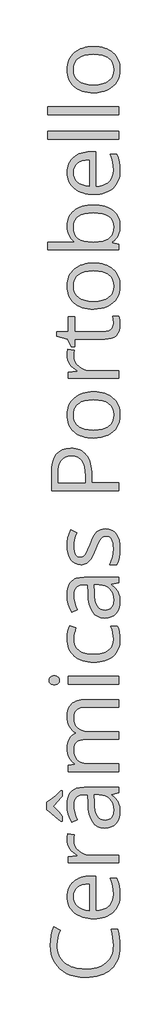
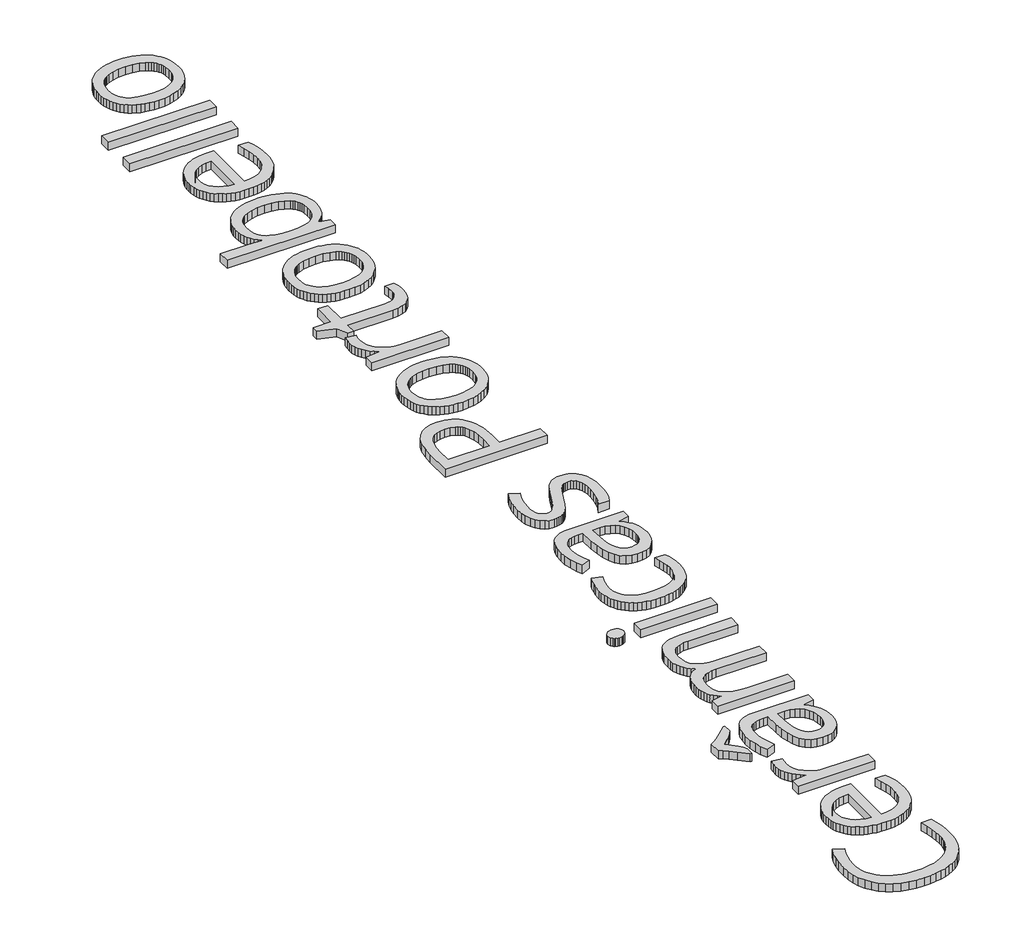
# One storey, part 5 of 10: 1 proxy.
"""IFC4 building model written with IfcOpenShell, lengths in millimetres."""

from ifc_helpers import new_model, si_unit, origin, origin_with_axes, place, context, project, spatial, polyline, outline, extrude, element, save

model = new_model("IFC4")

# Units and contexts
model_context = context("Model", 3, world=origin())
ifc_project = project(units=[si_unit("LENGTHUNIT", "METRE", prefix="MILLI")], contexts=[model_context])

# Site, building, storey
site = spatial("IfcSite", under=ifc_project)
building = spatial("IfcBuilding", under=site)
storey = spatial("IfcBuildingStorey", under=building, Name="PORTOBELLO - SHOWROOM", Elevation=0.0)

# Proxy
placement = place(None, origin())
element("IfcBuildingElementProxy", 1, Name="1200mm OpenSans", ObjectType="1200mm OpenSans", at=placement, inside=storey, context=model_context, shape_type="SweptSolid", body=[
    extrude(outline(polyline([(147390.2396817, -4554.9783889), (147392.360729, -4603.1624993), (147398.7238709, -4648.7438902), (147409.3291074, -4691.7225617), (147424.1764385, -4732.0985139), (147443.2658642, -4769.8717467), (147466.5973845, -4805.04226), (147494.1709994, -4837.610054), (147525.9867088, -4867.5751286), (147561.4924209, -4894.4473613), (147600.1360436, -4917.7366296), (147641.9175769, -4937.4429336), (147686.8370208, -4953.5662732), (147734.8943753, -4966.1066485), (147786.0896405, -4975.0640594), (147840.4228162, -4980.4385059), (147897.8939026, -4982.2299881), (147956.8353564, -4980.5032922), (148012.3346856, -4975.3232046), (148064.3918903, -4966.6897252), (148113.0069704, -4954.6028541), (148158.1799259, -4939.0625912), (148199.9107569, -4920.0689366), (148238.1994633, -4897.6218903), (148273.0460452, -4871.7214521), (148304.1012198, -4842.6267675), (148331.0157044, -4810.5969815), (148353.7894991, -4775.6320942), (148372.4226038, -4737.7321057), (148386.9150186, -4696.8970158), (148397.2667435, -4653.1268246), (148403.4777784, -4606.4215321), (148405.5481234, -4556.7811383), (148402.7313275, -4491.6793519), (148394.2809399, -4422.2058983), (148380.1969605, -4348.3607775), (148360.4793893, -4270.1439895), (148477.2975481, -4270.1439895), (148496.384157, -4336.1696849), (148510.017449, -4409.4965153), (148518.1974243, -4490.1244806), (148520.9240827, -4578.0535808), (148518.3861496, -4642.5018705), (148510.7723503, -4703.1643866), (148498.0826849, -4760.041129), (148480.3171533, -4813.1320978), (148457.4757555, -4862.4372929), (148429.5584915, -4907.9567143), (148396.5653613, -4949.6903621), (148358.496365, -4987.6382362), (148315.7514875, -5021.4397868), (148268.7307139, -5050.7344639), (148217.4340441, -5075.5222677), (148161.8614782, -5095.803198), (148102.0130161, -5111.577255), (148037.8886578, -5122.8444385), (147969.4884035, -5129.6047486), (147896.812253, -5131.8581853), (147805.9762194, -5127.5203197), (147720.9540525, -5114.5067227), (147641.7457524, -5092.8173944), (147568.3513189, -5062.4523348), (147501.9087376, -5023.8960328), (147443.5559942, -4977.6329772), (147393.2930885, -4923.6631682), (147351.1200206, -4861.9866056), (147317.7578901, -4793.561), (147293.927797, -4719.3440622), (147279.6297411, -4639.335792), (147274.8637225, -4553.5361894), (147278.8523054, -4462.0466592), (147290.8180543, -4376.5062019), (147310.7609692, -4296.9148175), (147338.6810499, -4223.272506), (147454.4175591, -4282.4026851), (147426.3397378, -4350.5466111), (147406.2841511, -4418.690537), (147394.2507991, -4486.834463), (147390.2396817, -4554.9783889)])), origin_with_axes(), (0.0, 0.0, 1.0), 100.0),
    extrude(outline(polyline([(148520.9240827, -3647.1138093), (148518.9973943, -3695.7373398), (148513.2173291, -3741.7356166), (148503.5838872, -3785.1086395), (148490.0970686, -3825.8564088), (148472.7568731, -3863.9789242), (148451.5633009, -3899.4761859), (148426.5163519, -3932.3481938), (148397.6160262, -3962.594948), (148365.2961103, -3989.7206923), (148329.9903907, -4013.2296708), (148291.6988675, -4033.1218833), (148250.4215406, -4049.3973299), (148206.1584102, -4062.0560106), (148158.9094761, -4071.0979253), (148108.6747383, -4076.5230742), (148055.454197, -4078.3314571), (148001.7069148, -4076.6526468), (147950.7933292, -4071.6162158), (147902.7134403, -4063.222164), (147857.4672481, -4051.4704916), (147815.0547525, -4036.3611985), (147775.4759536, -4017.8942847), (147738.7308513, -3996.0697502), (147704.8194457, -3970.8875951), (147674.3557983, -3942.8773768), (147647.9539705, -3912.5686532), (147625.6139623, -3879.961424), (147607.3357739, -3845.0556895), (147593.1194051, -3807.8514495), (147582.9648559, -3768.3487041), (147576.8721264, -3726.5474532), (147574.8412166, -3682.4476969), (147576.6383324, -3641.1027669), (147582.0296797, -3601.9774722), (147591.0152585, -3565.0718125), (147603.5950689, -3530.385788), (147619.7691109, -3497.9193987), (147639.5373844, -3467.6726446), (147662.8998894, -3439.6455255), (147689.856626, -3413.8380417), (147719.7597311, -3390.6839795), (147751.9613416, -3370.6171257), (147786.4614575, -3353.6374801), (147823.2600789, -3339.7450428), (147862.3572057, -3328.9398138), (147903.752838, -3321.2217931), (147947.4469757, -3316.5909807), (147993.4396189, -3315.0473765), (148082.4954374, -3315.0473765), (148082.4954374, -3936.6353572), (148157.0391236, -3930.1341923), (148222.0282382, -3914.5967462), (148277.4627811, -3890.0230189), (148301.5970882, -3874.3475498), (148323.3427524, -3856.4130105), (148342.6096362, -3836.382775), (148359.3076022, -3814.4202175), (148384.9967807, -3764.6981366), (148400.4102877, -3707.2467678), (148405.5481234, -3642.0661111), (148401.7398154, -3569.4378461), (148390.3148913, -3497.2151998), (148371.2733511, -3425.398172), (148344.6151949, -3353.9867628), (148464.3177527, -3353.9867628), (148490.3224122, -3424.4742629), (148507.7640123, -3490.9957144), (148517.6340651, -3562.2944518), (148520.9240827, -3647.1138093)]), holes=[polyline([(147690.2171759, -3683.8898964), (147694.8141867, -3735.4147266), (147708.6052194, -3781.4637057), (147731.5902738, -3822.0368335), (147763.7693499, -3857.1341102), (147804.0607982, -3886.1696422), (147851.382969, -3908.5575358), (147905.7358623, -3924.2977912), (147967.1194781, -3933.3904083), (147967.1194781, -3461.4306249), (147903.9781817, -3465.0361236), (147848.6788449, -3475.8526198), (147801.2214679, -3493.8801134), (147761.6060507, -3519.1186045), (147730.3734179, -3551.0498026), (147708.0643946, -3589.1554173), (147694.6789805, -3633.4354485), (147690.2171759, -3683.8898964)])]), origin_with_axes(), (0.0, 0.0, 1.0), 100.0),
    extrude(outline(polyline([(147574.8412166, -2667.860355), (147577.0946533, -2610.3526503), (147583.8549634, -2558.9742934), (147702.4758715, -2578.0834367), (147693.2818498, -2631.2645429), (147690.2171759, -2677.5952015), (147695.8620348, -2730.9227811), (147712.7966117, -2780.2167091), (147741.0209064, -2825.4769853), (147780.534919, -2866.7036098), (147828.4767849, -2901.0121836), (147881.9846394, -2925.5183078), (147941.0584827, -2940.2219823), (148005.6983145, -2945.1232071), (148497.8488908, -2945.1232071), (148497.8488908, -3081.411059), (147597.9164084, -3081.411059), (147597.9164084, -2968.9194987), (147759.4427514, -2953.4158542), (147759.4427514, -2946.9259565), (147717.6415006, -2920.2227315), (147680.9330166, -2890.9505887), (147649.3172997, -2859.1095281), (147622.7943497, -2824.6995496), (147601.8148539, -2788.1262719), (147586.8294999, -2749.7953136), (147577.8382874, -2709.7066746), (147574.8412166, -2667.860355)])), origin_with_axes(), (0.0, 0.0, 1.0), 100.0),
    extrude(outline(polyline([(148497.8488908, -1828.5002512), (148366.2481873, -1855.9020415), (148366.2481873, -1862.7524891), (148407.8466288, -1896.7906506), (148442.1439355, -1930.7612089), (148469.1401072, -1964.6641641), (148488.835144, -1998.4995162), (148502.8740547, -2034.4080301), (148512.901848, -2074.5304706), (148518.918524, -2118.8668378), (148520.9240827, -2167.4171316), (148516.4510108, -2231.5274058), (148503.0317952, -2288.2914764), (148480.6664359, -2337.7093434), (148449.3549329, -2379.7810066), (148409.7958516, -2413.3797479), (148362.6877573, -2437.3788488), (148308.03065, -2451.7783094), (148245.8245298, -2456.5781295), (148179.2749103, -2449.671346), (148121.1418769, -2428.9509955), (148071.4254296, -2394.417078), (148030.1255684, -2346.0695935), (147997.2422933, -2283.908542), (147972.7756043, -2207.9339235), (147956.7255013, -2118.1457381), (147949.0919845, -2014.5439856), (147944.0442863, -1859.8680901), (147889.9618054, -1859.8680901), (147842.2678175, -1862.7524891), (147801.2214679, -1871.4056861), (147766.8227566, -1885.827681), (147739.0716836, -1906.0184739), (147717.6978365, -1932.5639582), (147702.4308028, -1966.0500277), (147693.2705826, -2006.4766822), (147690.2171759, -2053.8439217), (147694.5437743, -2112.8388946), (147707.5235698, -2175.5295037), (147729.1565621, -2241.9157491), (147759.4427514, -2311.9976306), (147654.1621886, -2354.5425156), (147621.036669, -2283.964878), (147595.9333841, -2207.0776176), (147580.1142585, -2126.8552709), (147574.8412166, -2046.2723744), (147579.34809, -1970.0724122), (147592.8687102, -1904.4410682), (147615.4030773, -1849.3783423), (147630.0504159, -1825.8102112), (147646.9511911, -1804.8842346), (147666.3363804, -1786.5046414), (147688.4369609, -1770.5756607), (147713.2529326, -1757.0972924), (147740.7842955, -1746.0695366), (147803.9931951, -1731.3658621), (147878.0636596, -1726.4646372), (148497.8488908, -1726.4646372), (148497.8488908, -1828.5002512)]), holes=[polyline([(148405.5481234, -2140.3758911), (148401.1877234, -2079.1274815), (148388.1065233, -2024.8196569), (148366.3045232, -1977.4524174), (148335.781723, -1937.0257629), (148297.4169631, -1904.6889462), (148252.0890838, -1881.59122), (148199.7980851, -1867.7325842), (148140.5439669, -1863.113039), (148059.4202456, -1863.113039), (148065.1890435, -2001.92474), (148070.5071541, -2078.7443973), (148080.6926881, -2144.0715273), (148095.7456452, -2197.9061302), (148115.6660257, -2240.2482059), (148141.1073261, -2272.2695415), (148172.7230431, -2295.141924), (148210.5131766, -2308.8653536), (148254.4777267, -2313.4398301), (148289.2257207, -2310.5892326), (148319.5569787, -2302.0374403), (148345.4715009, -2287.7844532), (148366.969287, -2267.8302712), (148383.8475279, -2242.7607878), (148395.9034143, -2213.1618967), (148403.1369461, -2179.0335978), (148405.5481234, -2140.3758911)])]), origin_with_axes(), (0.0, 0.0, 1.0), 100.0),
    extrude(outline(polyline([(147463.070756, -2338.3177713), (147363.5589912, -2249.9830525), (147294.3334156, -2192.6556227), (147245.118358, -2156.6006354), (147205.6381469, -2132.0832441), (147205.6381469, -1996.155942), (147246.2000076, -1971.5033445), (147297.2178146, -1933.6005391), (147366.80394, -1874.6055662), (147463.070756, -1786.676466), (147482.5404492, -1786.676466), (147482.5404492, -1884.0249316), (147454.8231777, -1922.3784243), (147418.9033966, -1965.3289279), (147322.4563057, -2065.0209677), (147420.1653212, -2165.5242448), (147455.7696211, -2207.595908), (147482.5404492, -2244.2142545), (147482.5404492, -2338.3177713), (147463.070756, -2338.3177713)])), origin_with_axes(), (0.0, 0.0, 1.0), 100.0),
    extrude(outline(polyline([(148497.8488908, -292.9183432), (147907.2681993, -292.9183432), (147856.3968657, -295.8027422), (147812.3083765, -304.4559391), (147775.0027319, -318.877934), (147744.4799317, -339.0687269), (147720.739976, -365.3437989), (147703.7828648, -398.0186311), (147693.6085981, -437.0932236), (147690.2171759, -482.5675763), (147694.8254539, -542.2160458), (147708.6502881, -593.5267996), (147731.6916784, -636.4998376), (147763.9496248, -671.1351597), (147805.7846773, -697.7933159), (147857.5573856, -716.8348561), (147919.2677497, -728.2597802), (147990.9157697, -732.0680882), (148497.8488908, -732.0680882), (148497.8488908, -868.71649), (147907.2681993, -868.71649), (147856.3968657, -871.600889), (147812.3083765, -880.2540859), (147775.0027319, -894.6760808), (147744.4799317, -914.8668737), (147720.739976, -941.1870144), (147703.7828648, -973.9970528), (147693.6085981, -1013.2969889), (147690.2171759, -1059.0868228), (147695.0620648, -1119.140911), (147709.5967315, -1170.5868709), (147733.8211761, -1213.4247027), (147749.5670651, -1231.6155705), (147767.7353985, -1247.6544062), (147812.6689264, -1273.8393407), (147869.9512874, -1292.5428654), (147939.5824816, -1303.7649802), (148021.5625089, -1307.5056851), (148497.8488908, -1307.5056851), (148497.8488908, -1443.793537), (147597.9164084, -1443.793537), (147597.9164084, -1332.7441762), (147713.2923677, -1310.750634), (147713.2923677, -1304.2607362), (147682.4540864, -1282.819286), (147655.1987695, -1257.4343215), (147631.5264169, -1228.1058428), (147611.4370287, -1194.8338499), (147595.4263609, -1158.5422517), (147583.9901696, -1120.1549575), (147577.1284548, -1079.6719671), (147574.8412166, -1037.0932805), (147577.2073251, -986.469825), (147584.3056508, -940.4208459), (147596.1361935, -898.9463434), (147612.6989532, -862.0463173), (147633.9939301, -829.7207678), (147660.021124, -801.9696948), (147690.780535, -778.7930983), (147726.2721631, -760.1909783), (147726.2721631, -753.7010806), (147693.1241092, -731.2455838), (147663.6266228, -704.2606793), (147637.7797038, -672.7463669), (147615.5833522, -636.7026469), (147597.7586679, -597.053428), (147585.0267505, -554.7226195), (147577.3876001, -509.7102214), (147574.8412166, -462.0162335), (147579.776243, -390.2104729), (147594.5813221, -328.0268871), (147605.6851315, -300.5434096), (147619.256454, -275.4654759), (147635.2952898, -252.7930859), (147653.8016387, -232.5262395), (147675.0233789, -214.6536696), (147699.2083883, -199.1641091), (147726.356667, -186.0575579), (147756.468215, -175.3340159), (147825.5811187, -161.0359601), (147906.5470995, -156.2699414), (148497.8488908, -156.2699414), (148497.8488908, -292.9183432)])), origin_with_axes(), (0.0, 0.0, 1.0), 100.0),
    extrude(outline(polyline([(148497.8488908, 257.6413125), (148497.8488908, 121.3534606), (147597.9164084, 121.3534606), (147597.9164084, 257.6413125), (148497.8488908, 257.6413125)])), origin_with_axes(), (0.0, 0.0, 1.0), 100.0),
    extrude(outline(polyline([(147343.7287482, 109.8158647), (147321.5211294, 111.2580642), (147302.4908565, 115.5846626), (147286.6379293, 122.7956601), (147273.9623478, 132.8910565), (147257.3319849, 158.8506474), (147251.7885306, 190.5790362), (147257.4221224, 221.1356379), (147274.3228977, 247.1853662), (147287.111151, 257.5962438), (147302.9415438, 265.0325849), (147321.8140762, 269.4943896), (147343.7287482, 270.9816578), (147365.6659545, 269.4943896), (147384.60609, 265.0325849), (147400.5491547, 257.5962438), (147413.4951485, 247.1853662), (147430.6663362, 221.1356379), (147436.3900655, 190.5790362), (147430.6663362, 158.8506474), (147423.5116747, 145.1497522), (147413.4951485, 132.8910565), (147400.5491547, 122.7956601), (147384.60609, 115.5846626), (147365.6659545, 111.2580642), (147343.7287482, 109.8158647)])), origin_with_axes(), (0.0, 0.0, 1.0), 100.0),
    extrude(outline(polyline([(148520.9240827, 927.542976), (148519.0171119, 879.6292781), (148513.2961994, 834.4985745), (148503.7613454, 792.1508652), (148490.4125497, 752.5861503), (148473.2498124, 715.8044297), (148452.2731335, 681.8057034), (148427.4825129, 650.5899715), (148398.8779508, 622.1572338), (148366.7861953, 596.8060709), (148331.5339948, 574.835063), (148293.1213494, 556.2442102), (148251.548259, 541.0335125), (148206.8147236, 529.2029698), (148158.9207433, 520.7525821), (148107.8663179, 515.6823495), (148053.6514476, 513.992272), (147998.0394465, 515.7077007), (147945.6780279, 520.8539868), (147896.5671917, 529.4311302), (147850.706938, 541.4391311), (147808.0972667, 556.8779893), (147768.7381778, 575.7477049), (147732.6296714, 598.0482779), (147699.7717475, 623.7797083), (147670.4911543, 652.6828508), (147645.1146402, 684.4985603), (147623.6422052, 719.2268367), (147606.0738493, 756.86768), (147592.4095725, 797.4210903), (147582.6493748, 840.8870676), (147576.7932561, 887.2656117), (147574.8412166, 936.5567229), (147578.1763029, 1002.131731), (147588.1815619, 1067.6166016), (147602.6936943, 1125.9806123), (147619.5494008, 1170.1930404), (147732.401511, 1128.0087053), (147715.8612856, 1080.1907784), (147702.2955966, 1028.3166655), (147693.2367811, 977.5242022), (147690.2171759, 932.9512241), (147695.8564012, 867.9677432), (147712.7740773, 811.6487263), (147740.9702041, 763.9941736), (147780.4447815, 725.004085), (147831.1978097, 694.6784606), (147893.2292886, 673.0173003), (147966.5392182, 660.0206041), (148051.1275985, 655.688372), (148131.7780981, 659.9135658), (148202.4684076, 672.5891473), (148263.1985268, 693.7151164), (148313.9684557, 723.2914731), (148335.4324403, 741.2091117), (148354.0345603, 761.160477), (148369.7748157, 783.1455688), (148382.6532065, 807.1643873), (148392.6697326, 833.2169324), (148399.8243942, 861.3032041), (148405.5481234, 923.5769274), (148402.5059838, 980.8818228), (148393.3795652, 1038.8627493), (148378.1688674, 1097.5197067), (148356.8738906, 1156.8526951), (148475.4947987, 1156.8526951), (148495.3701104, 1108.3136685), (148509.5667617, 1053.9157064), (148518.0847524, 993.658809), (148520.9240827, 927.542976)])), origin_with_axes(), (0.0, 0.0, 1.0), 100.0),
    extrude(outline(polyline([(148497.8488908, 1932.7560213), (148366.2481873, 1905.3542309), (148366.2481873, 1898.5037834), (148407.8466288, 1864.4656219), (148442.1439355, 1830.4950636), (148469.1401072, 1796.5921084), (148488.835144, 1762.7567563), (148502.8740547, 1726.8482424), (148512.901848, 1686.7258018), (148518.918524, 1642.3894347), (148520.9240827, 1593.8391409), (148516.4510108, 1529.7288666), (148503.0317952, 1472.964796), (148480.6664359, 1423.5469291), (148449.3549329, 1381.4752658), (148409.7958516, 1347.8765246), (148362.6877573, 1323.8774237), (148308.03065, 1309.4779631), (148245.8245298, 1304.6781429), (148179.2749103, 1311.5849264), (148121.1418769, 1332.3052769), (148071.4254296, 1366.8391944), (148030.1255684, 1415.1866789), (147997.2422933, 1477.3477304), (147972.7756043, 1553.3223489), (147956.7255013, 1643.1105344), (147949.0919845, 1746.7122869), (147944.0442863, 1901.3881823), (147889.9618054, 1901.3881823), (147842.2678175, 1898.5037834), (147801.2214679, 1889.8505864), (147766.8227566, 1875.4285915), (147739.0716836, 1855.2377986), (147717.6978365, 1828.6923142), (147702.4308028, 1795.2062448), (147693.2705826, 1754.7795903), (147690.2171759, 1707.4123508), (147694.5437743, 1648.4173779), (147707.5235698, 1585.7267687), (147729.1565621, 1519.3405234), (147759.4427514, 1449.2586419), (147654.1621886, 1406.7137569), (147621.036669, 1477.2913945), (147595.9333841, 1554.1786549), (147580.1142585, 1634.4010016), (147574.8412166, 1714.9838981), (147579.34809, 1791.1838603), (147592.8687102, 1856.8152043), (147615.4030773, 1911.8779302), (147630.0504159, 1935.4460613), (147646.9511911, 1956.3720379), (147666.3363804, 1974.751631), (147688.4369609, 1990.6806118), (147713.2529326, 2004.15898), (147740.7842955, 2015.1867359), (147803.9931951, 2029.8904104), (147878.0636596, 2034.7916352), (148497.8488908, 2034.7916352), (148497.8488908, 1932.7560213)]), holes=[polyline([(148405.5481234, 1620.8803813), (148401.1877234, 1682.128791), (148388.1065233, 1736.4366156), (148366.3045232, 1783.8038551), (148335.781723, 1824.2305096), (148297.4169631, 1856.5673263), (148252.0890838, 1879.6650525), (148199.7980851, 1893.5236882), (148140.5439669, 1898.1432335), (148059.4202456, 1898.1432335), (148065.1890435, 1759.3315325), (148070.5071541, 1682.5118752), (148080.6926881, 1617.1847451), (148095.7456452, 1563.3501423), (148115.6660257, 1521.0080666), (148141.1073261, 1488.986731), (148172.7230431, 1466.1143485), (148210.5131766, 1452.3909189), (148254.4777267, 1447.8164424), (148289.2257207, 1450.6670399), (148319.5569787, 1459.2188321), (148345.4715009, 1473.4718193), (148366.969287, 1493.4260013), (148383.8475279, 1518.4954847), (148395.9034143, 1548.0943758), (148403.1369461, 1582.2226747), (148405.5481234, 1620.8803813)])]), origin_with_axes(), (0.0, 0.0, 1.0), 100.0),
    extrude(outline(polyline([(148255.1988265, 2902.2746291), (148315.3543193, 2896.3818921), (148342.6856897, 2889.0159709), (148368.1861428, 2878.7036811), (148391.8556786, 2865.4450229), (148413.6942971, 2849.2399962), (148433.7019982, 2830.088601), (148451.878782, 2807.9908374), (148482.0861011, 2756.1054572), (148503.6627575, 2694.7331086), (148516.6087514, 2623.8737914), (148520.9240827, 2543.5275057), (148517.3636527, 2458.5053388), (148506.6823627, 2383.3532247), (148488.8802127, 2318.0711634), (148463.9572028, 2262.6591548), (148336.3225478, 2262.6591548), (148365.0313314, 2330.3523934), (148386.979805, 2402.9130553), (148400.9060438, 2476.4652294), (148405.5481234, 2547.1330044), (148403.4073585, 2597.9142006), (148396.9850639, 2642.453377), (148386.2812396, 2680.7505338), (148371.2958855, 2712.8056709), (148351.9163298, 2738.1230323), (148328.0299008, 2756.2068619), (148299.6365983, 2767.0571596), (148266.7364224, 2770.6739255), (148241.0247096, 2767.8007937), (148217.2509524, 2759.1813983), (148195.4151507, 2744.8157393), (148175.5173046, 2724.7038167), (148155.7321303, 2696.2767127), (148134.2343442, 2656.9655094), (148086.1009361, 2545.6908049), (148041.5730269, 2437.4357056), (148003.1744654, 2365.7764184), (147965.451935, 2319.2204161), (147944.7991876, 2301.0464491), (147922.9521187, 2286.2751715), (147899.392438, 2274.8389802), (147873.6018549, 2266.6702722), (147845.5803695, 2261.7690473), (147815.3279817, 2260.1353057), (147762.5524941, 2265.7688975), (147715.6359419, 2282.6696728), (147674.5783251, 2310.8376316), (147639.3796438, 2350.2727739), (147611.1440819, 2399.5329003), (147590.9758234, 2457.1758112), (147578.8748683, 2523.2015066), (147574.8412166, 2597.6099866), (147578.5819215, 2670.2382516), (147589.8040363, 2742.1003481), (147608.507561, 2813.1962761), (147634.6924955, 2883.5260357), (147746.1024061, 2834.491253), (147721.6526179, 2767.7895265), (147704.1884834, 2704.3327489), (147693.7100028, 2644.1209202), (147690.2171759, 2587.1540403), (147692.1438643, 2541.2966034), (147697.9239294, 2501.433308), (147707.5573713, 2467.5641544), (147721.04419, 2439.6891423), (147737.9336981, 2417.9209438), (147757.7752083, 2402.3722305), (147780.5687205, 2393.0430026), (147806.3142349, 2389.9332599), (147840.3411291, 2394.5753395), (147868.8696378, 2408.5015783), (147894.0179914, 2432.793626), (147917.9044205, 2468.5331322), (147946.4329292, 2529.0153733), (147985.5075216, 2627.535626), (148015.1176799, 2701.5948233), (148044.8179757, 2762.6066221), (148074.608409, 2810.5710224), (148104.4889797, 2845.4880241), (148136.3525747, 2870.3321638), (148172.0920808, 2888.0779778), (148211.7074981, 2898.7254663), (148255.1988265, 2902.2746291)])), origin_with_axes(), (0.0, 0.0, 1.0), 100.0),
    extrude(outline(polyline([(147641.5429431, 4347.358519), (147684.9638516, 4345.4092963), (147725.8102086, 4339.561628), (147764.0820143, 4329.8155143), (147799.7792685, 4316.170955), (147832.9019712, 4298.6279503), (147863.4501225, 4277.1865001), (147891.4237224, 4251.8466043), (147916.8227709, 4222.6082631), (147939.4275578, 4189.7362551), (147959.0183732, 4153.4953593), (147975.5952169, 4113.8855757), (147989.1580891, 4070.9069041), (147999.7069897, 4024.5593447), (148007.2419187, 3974.8428974), (148011.7628761, 3921.7575622), (148013.2698619, 3865.3033392), (148013.2698619, 3723.6072392), (148497.8488908, 3723.6072392), (148497.8488908, 3584.0744384), (147297.9389143, 3584.0744384), (147297.9389143, 3896.3106282), (147303.3077273, 4002.0249776), (147319.4141661, 4093.6440805), (147346.2582309, 4171.1679367), (147383.8399215, 4234.5965463), (147432.159238, 4283.9299094), (147491.2161805, 4319.1680259), (147561.0107488, 4340.3108957), (147641.5429431, 4347.358519)]), holes=[polyline([(147897.8939026, 3723.6072392), (147897.8939026, 3849.7996946), (147894.175732, 3936.5570078), (147883.0212203, 4010.424663), (147864.4303675, 4071.4026602), (147838.4031736, 4119.4909995), (147822.403773, 4139.0113949), (147804.1509357, 4155.929071), (147783.6446616, 4170.2440276), (147760.8849509, 4181.9562649), (147708.6052194, 4197.5725813), (147647.311741, 4202.7780201), (147591.9560684, 4197.8767952), (147544.1494087, 4183.1731207), (147503.8917619, 4158.6669966), (147471.1831282, 4124.3584227), (147445.8657668, 4079.7065744), (147427.7819372, 4024.1706269), (147416.9316395, 3957.75058), (147413.3148736, 3880.4464338), (147413.3148736, 3723.6072392), (147897.8939026, 3723.6072392)])]), origin_with_axes(), (0.0, 0.0, 1.0), 100.0),
    extrude(outline(polyline([(148047.1615499, 5354.7348635), (148101.4271225, 5353.002534), (148152.6336549, 5347.8055456), (148200.7811468, 5339.1438983), (148245.8695985, 5327.017592), (148287.8990098, 5311.4266268), (148326.8693809, 5292.3710027), (148362.7807115, 5269.8507196), (148395.6330019, 5243.8657776), (148424.998099, 5214.8330625), (148450.4478497, 5183.16946), (148471.9822542, 5148.8749701), (148489.6013125, 5111.9495929), (148503.3050244, 5072.3933284), (148513.0933901, 5030.2061765), (148518.9664095, 4985.3881372), (148520.9240827, 4937.9392106), (148517.3298511, 4879.2484516), (148506.5471565, 4823.9603821), (148488.5759988, 4772.0750019), (148463.416378, 4723.5923112), (148431.5415158, 4679.4812878), (148393.4246339, 4640.7109093), (148349.0657324, 4607.2811757), (148298.4648112, 4579.1920872), (148242.4669091, 4556.9506669), (148181.9170648, 4541.0639382), (148116.8152784, 4531.5319009), (148047.1615499, 4528.3545552), (147992.9072444, 4530.0728006), (147941.7345137, 4535.2275371), (147893.6433576, 4543.8187645), (147848.6337762, 4555.846483), (147806.7057695, 4571.3106923), (147767.8593375, 4590.2113927), (147732.0944802, 4612.548584), (147699.4111976, 4638.3222663), (147670.2151083, 4667.1493554), (147644.9118309, 4698.6467669), (147623.5013654, 4732.814501), (147605.9837119, 4769.6525575), (147592.3588702, 4809.1609365), (147582.6268404, 4851.339638), (147576.7876225, 4896.188662), (147574.8412166, 4943.7080086), (147576.8326913, 4989.641499), (147582.8071153, 5033.1581786), (147592.7644888, 5074.2580472), (147606.7048116, 5112.9411051), (147624.6280838, 5149.207352), (147646.5343054, 5183.0567881), (147672.4234763, 5214.4894134), (147702.2955966, 5243.5052277), (147735.5647728, 5269.5746736), (147771.6451112, 5292.1681934), (147810.5366119, 5311.285787), (147852.2392749, 5326.9274546), (147896.7531002, 5339.093196), (147944.0780878, 5347.7830113), (147994.2142377, 5352.9969004), (148047.1615499, 5354.7348635)]), holes=[polyline([(148046.0799003, 4670.0506551), (148128.6458211, 4674.3547193), (148200.7557957, 4687.2669116), (148262.4098239, 4708.7872321), (148289.3158582, 4722.7754404), (148313.6079058, 4738.9156808), (148335.1563943, 4757.1403502), (148353.831751, 4777.3818454), (148369.6339759, 4799.6401664), (148382.563069, 4823.9153133), (148392.6190303, 4850.2072861), (148399.8018598, 4878.5160847), (148405.5481234, 4941.1841594), (148399.8243942, 5003.8747686), (148392.6697326, 5032.2117351), (148382.6532065, 5058.543143), (148369.7748157, 5082.8689923), (148354.0345603, 5105.1892828), (148335.4324403, 5125.5040147), (148313.9684557, 5143.8131879), (148289.7496447, 5160.0379322), (148262.8830456, 5174.0993772), (148201.206483, 5195.7323696), (148128.9387679, 5208.712165), (148046.0799003, 5213.0387635), (147964.0660714, 5208.712165), (147892.5307232, 5195.7323696), (147831.4738557, 5174.0993772), (147804.8748522, 5160.0379322), (147780.8954689, 5143.8131879), (147759.6427439, 5125.4758467), (147741.2237157, 5105.076611), (147725.6383841, 5082.6154806), (147712.8867491, 5058.0924557), (147702.9688108, 5031.5075362), (147695.8845692, 5002.8607221), (147690.2171759, 4939.3814101), (147695.8056989, 4876.7696712), (147702.7913527, 4848.5312925), (147712.571268, 4822.3379076), (147725.1454448, 4798.1895166), (147740.5138831, 4776.0861193), (147758.676583, 4756.0277158), (147779.6335443, 4738.0143062), (147803.3565992, 4722.0853255), (147829.8175797, 4708.2802088), (147890.9533175, 4687.0415679), (147963.0407577, 4674.2983833), (148046.0799003, 4670.0506551)])]), origin_with_axes(), (0.0, 0.0, 1.0), 100.0),
    extrude(outline(polyline([(147574.8412166, 6008.4117828), (147577.0946533, 6065.9194875), (147583.8549634, 6117.2978443), (147702.4758715, 6098.1887011), (147693.2818498, 6045.0075949), (147690.2171759, 5998.6769362), (147695.8620348, 5945.3493566), (147712.7966117, 5896.0554287), (147741.0209064, 5850.7951525), (147780.534919, 5809.568528), (147828.4767849, 5775.2599541), (147881.9846394, 5750.75383), (147941.0584827, 5736.0501555), (148005.6983145, 5731.1489306), (148497.8488908, 5731.1489306), (148497.8488908, 5594.8610787), (147597.9164084, 5594.8610787), (147597.9164084, 5707.352639), (147759.4427514, 5722.8562836), (147759.4427514, 5729.3461813), (147717.6415006, 5756.0494062), (147680.9330166, 5785.321549), (147649.3172997, 5817.1626097), (147622.7943497, 5851.5725881), (147601.8148539, 5888.1458658), (147586.8294999, 5926.4768242), (147577.8382874, 5966.5654632), (147574.8412166, 6008.4117828)])), origin_with_axes(), (0.0, 0.0, 1.0), 100.0),
    extrude(outline(polyline([(148405.5481234, 6580.9649807), (148400.1398753, 6651.6327558), (148388.9628293, 6705.7152367), (148495.6855916, 6705.7152367), (148505.6007131, 6678.0430339), (148513.7130852, 6639.73461), (148519.1213333, 6598.3615121), (148520.9240827, 6561.4952876), (148516.6425529, 6499.63845), (148503.7979637, 6446.0291908), (148482.390315, 6400.66751), (148452.4196069, 6363.5534074), (148413.8858392, 6334.6868832), (148366.7890121, 6314.0679374), (148311.1291255, 6301.6965699), (148246.9061794, 6297.5727807), (147713.2923677, 6297.5727807), (147713.2923677, 6167.0537268), (147645.8695415, 6167.0537268), (147587.4604621, 6296.851681), (147390.2396817, 6354.9002105), (147390.2396817, 6434.2211825), (147597.9164084, 6434.2211825), (147597.9164084, 6699.225339), (147713.2923677, 6699.225339), (147713.2923677, 6434.2211825), (148238.6135323, 6434.2211825), (148276.6402767, 6436.6661613), (148309.9573384, 6444.0010978), (148338.5647174, 6456.2259919), (148362.4624136, 6473.3408437), (148381.3124116, 6494.7372252), (148394.7766959, 6519.8067085), (148402.8552665, 6548.5492937), (148405.5481234, 6580.9649807)])), origin_with_axes(), (0.0, 0.0, 1.0), 100.0),
    extrude(outline(polyline([(148047.1615499, 7662.2540491), (148101.4271225, 7660.5217196), (148152.6336549, 7655.3247312), (148200.7811468, 7646.6630839), (148245.8695985, 7634.5367776), (148287.8990098, 7618.9458124), (148326.8693809, 7599.8901883), (148362.7807115, 7577.3699052), (148395.6330019, 7551.3849632), (148424.998099, 7522.352248), (148450.4478497, 7490.6886456), (148471.9822542, 7456.3941557), (148489.6013125, 7419.4687785), (148503.3050244, 7379.9125139), (148513.0933901, 7337.725362), (148518.9664095, 7292.9073228), (148520.9240827, 7245.4583962), (148517.3298511, 7186.7676372), (148506.5471565, 7131.4795676), (148488.5759988, 7079.5941875), (148463.416378, 7031.1114968), (148431.5415158, 6987.0004733), (148393.4246339, 6948.2300948), (148349.0657324, 6914.8003613), (148298.4648112, 6886.7112728), (148242.4669091, 6864.4698525), (148181.9170648, 6848.5831237), (148116.8152784, 6839.0510865), (148047.1615499, 6835.8737407), (147992.9072444, 6837.5919862), (147941.7345137, 6842.7467227), (147893.6433576, 6851.3379501), (147848.6337762, 6863.3656685), (147806.7057695, 6878.8298779), (147767.8593375, 6897.7305783), (147732.0944802, 6920.0677696), (147699.4111976, 6945.8414519), (147670.2151083, 6974.668541), (147644.9118309, 7006.1659525), (147623.5013654, 7040.3336865), (147605.9837119, 7077.1717431), (147592.3588702, 7116.6801221), (147582.6268404, 7158.8588236), (147576.7876225, 7203.7078476), (147574.8412166, 7251.2271941), (147576.8326913, 7297.1606846), (147582.8071153, 7340.6773641), (147592.7644888, 7381.7772328), (147606.7048116, 7420.4602906), (147624.6280838, 7456.7265376), (147646.5343054, 7490.5759737), (147672.4234763, 7522.0085989), (147702.2955966, 7551.0244133), (147735.5647728, 7577.0938592), (147771.6451112, 7599.687379), (147810.5366119, 7618.8049726), (147852.2392749, 7634.4466401), (147896.7531002, 7646.6123815), (147944.0780878, 7655.3021968), (147994.2142377, 7660.516086), (148047.1615499, 7662.2540491)]), holes=[polyline([(148046.0799003, 6977.5698407), (148128.6458211, 6981.8739048), (148200.7557957, 6994.7860971), (148262.4098239, 7016.3064177), (148289.3158582, 7030.294626), (148313.6079058, 7046.4348664), (148335.1563943, 7064.6595358), (148353.831751, 7084.901031), (148369.6339759, 7107.159352), (148382.563069, 7131.4344989), (148392.6190303, 7157.7264717), (148399.8018598, 7186.0352703), (148405.5481234, 7248.703345), (148399.8243942, 7311.3939541), (148392.6697326, 7339.7309207), (148382.6532065, 7366.0623286), (148369.7748157, 7390.3881778), (148354.0345603, 7412.7084684), (148335.4324403, 7433.0232003), (148313.9684557, 7451.3323735), (148289.7496447, 7467.5571178), (148262.8830456, 7481.6185628), (148201.206483, 7503.2515552), (148128.9387679, 7516.2313506), (148046.0799003, 7520.5579491), (147964.0660714, 7516.2313506), (147892.5307232, 7503.2515552), (147831.4738557, 7481.6185628), (147804.8748522, 7467.5571178), (147780.8954689, 7451.3323735), (147759.6427439, 7432.9950323), (147741.2237157, 7412.5957966), (147725.6383841, 7390.1346662), (147712.8867491, 7365.6116413), (147702.9688108, 7339.0267217), (147695.8845692, 7310.3799076), (147690.2171759, 7246.9005957), (147695.8056989, 7184.2888568), (147702.7913527, 7156.0504781), (147712.571268, 7129.8570932), (147725.1454448, 7105.7087021), (147740.5138831, 7083.6053049), (147758.676583, 7063.5469014), (147779.6335443, 7045.5334917), (147803.3565992, 7029.604511), (147829.8175797, 7015.7993944), (147890.9533175, 6994.5607535), (147963.0407577, 6981.8175689), (148046.0799003, 6977.5698407)])]), origin_with_axes(), (0.0, 0.0, 1.0), 100.0),
    extrude(outline(polyline([(147574.8412166, 8323.5025157), (147576.7650882, 8367.0473632), (147582.5367029, 8408.0852624), (147592.1560609, 8446.6162132), (147605.623162, 8482.6402158), (147622.9380063, 8516.1572699), (147644.1005937, 8547.1673758), (147669.1109243, 8575.6705333), (147697.9689981, 8601.6667425), (147730.3424332, 8624.8630566), (147765.8988476, 8644.9665288), (147804.6382413, 8661.9771591), (147846.5606144, 8675.8949475), (147891.6659669, 8686.7198941), (147939.9542987, 8694.4519988), (147991.4256098, 8699.0912616), (148046.0799003, 8700.6376826), (148100.8440458, 8699.0771776), (148152.4646471, 8694.3956629), (148200.9417042, 8686.5931383), (148246.2752171, 8675.6696039), (148288.4651858, 8661.6250596), (148327.5116103, 8644.4595055), (148363.4144906, 8624.1729416), (148396.1738267, 8600.7653678), (148425.4121679, 8574.5917005), (148450.7520637, 8546.0068559), (148472.1935139, 8515.010834), (148489.7365187, 8481.6036349), (148503.3810779, 8445.7852585), (148513.1271917, 8407.5557048), (148518.9748599, 8366.9149738), (148520.9240827, 8323.8630655), (148518.8621881, 8280.4731418), (148512.6765043, 8238.9986393), (148502.3670314, 8199.4395579), (148487.9337693, 8161.7958977), (148469.2189775, 8126.6084836), (148446.0649153, 8094.4181403), (148418.4715829, 8065.2248678), (148386.4389801, 8039.0286661), (148386.4389801, 8028.9332696), (148497.8488908, 8000.0892798), (148497.8488908, 7902.3802643), (147228.7133388, 7902.3802643), (147228.7133388, 8038.6681162), (147529.7724825, 8038.6681162), (147625.8590236, 8037.0456418), (147711.4896184, 8032.1782185), (147711.4896184, 8038.6681162), (147679.4626492, 8064.1770197), (147651.7059426, 8092.5703222), (147628.2194985, 8123.8480236), (147609.003317, 8158.0101241), (147594.0573981, 8195.0566235), (147583.3817417, 8234.9875219), (147576.9763479, 8277.8028193), (147574.8412166, 8323.5025157)]), holes=[polyline([(147690.2171759, 8304.3933724), (147695.3099428, 8238.6718909), (147710.5882437, 8182.8429966), (147722.0469693, 8158.6382696), (147736.0520784, 8136.9066893), (147752.603571, 8117.6482559), (147771.7014471, 8100.8629693), (147793.8132948, 8086.2860506), (147819.4067021, 8073.652721), (147881.038196, 8054.2168295), (147956.5959287, 8042.5552945), (148046.0799003, 8038.6681162), (148135.823017, 8042.6679664), (148211.7976355, 8054.6675168), (148274.0037558, 8074.6667676), (148299.943629, 8087.6662806), (148322.4413777, 8102.6657186), (148341.9195212, 8119.8678911), (148358.800579, 8139.4756072), (148373.0845509, 8161.488867), (148384.771437, 8185.9076705), (148400.3539518, 8241.9619085), (148405.5481234, 8307.6383213), (148399.7229895, 8367.2079206), (148392.4415722, 8393.9421303), (148382.2475879, 8418.6426133), (148369.1410366, 8441.3093698), (148353.1219185, 8461.9423996), (148334.1902333, 8480.5417028), (148312.3459813, 8497.1072794), (148260.6634105, 8524.3175276), (148198.8178401, 8543.7534192), (148126.8092702, 8555.4149541), (148044.6377008, 8559.3021325), (147960.91126, 8555.4149541), (147888.5646746, 8543.7534192), (147827.5979446, 8524.3175276), (147778.0110699, 8497.1072794), (147757.434376, 8480.4910005), (147739.6012413, 8461.7395903), (147724.5116657, 8440.8530489), (147712.1656494, 8417.8313761), (147702.5631922, 8392.6745721), (147695.7042942, 8365.3826368), (147690.2171759, 8304.3933724)])]), origin_with_axes(), (0.0, 0.0, 1.0), 100.0),
    extrude(outline(polyline([(148520.9240827, 9321.1440136), (148518.9973943, 9272.5204831), (148513.2173291, 9226.5222063), (148503.5838872, 9183.1491834), (148490.0970686, 9142.4014141), (148472.7568731, 9104.2788987), (148451.5633009, 9068.781637), (148426.5163519, 9035.9096291), (148397.6160262, 9005.6628749), (148365.2961103, 8978.5371306), (148329.9903907, 8955.0281522), (148291.6988675, 8935.1359396), (148250.4215406, 8918.860493), (148206.1584102, 8906.2018124), (148158.9094761, 8897.1598976), (148108.6747383, 8891.7347487), (148055.454197, 8889.9263658), (148001.7069148, 8891.6051761), (147950.7933292, 8896.6416071), (147902.7134403, 8905.0356589), (147857.4672481, 8916.7873313), (147815.0547525, 8931.8966244), (147775.4759536, 8950.3635382), (147738.7308513, 8972.1880727), (147704.8194457, 8997.3702278), (147674.3557983, 9025.3804461), (147647.9539705, 9055.6891698), (147625.6139623, 9088.2963989), (147607.3357739, 9123.2021334), (147593.1194051, 9160.4063734), (147582.9648559, 9199.9091189), (147576.8721264, 9241.7103697), (147574.8412166, 9285.810126), (147576.6383324, 9327.155056), (147582.0296797, 9366.2803508), (147591.0152585, 9403.1860104), (147603.5950689, 9437.8720349), (147619.7691109, 9470.3384242), (147639.5373844, 9500.5851784), (147662.8998894, 9528.6122974), (147689.856626, 9554.4197812), (147719.7597311, 9577.5738434), (147751.9613416, 9597.6406972), (147786.4614575, 9614.6203428), (147823.2600789, 9628.5127801), (147862.3572057, 9639.3180091), (147903.752838, 9647.0360298), (147947.4469757, 9651.6668422), (147993.4396189, 9653.2104464), (148082.4954374, 9653.2104464), (148082.4954374, 9031.6224657), (148157.0391236, 9038.1236306), (148222.0282382, 9053.6610767), (148277.4627811, 9078.234804), (148301.5970882, 9093.9102731), (148323.3427524, 9111.8448124), (148342.6096362, 9131.8750479), (148359.3076022, 9153.8376054), (148384.9967807, 9203.5596863), (148400.4102877, 9261.0110551), (148405.5481234, 9326.1917118), (148401.7398154, 9398.8199768), (148390.3148913, 9471.0426232), (148371.2733511, 9542.8596509), (148344.6151949, 9614.2710601), (148464.3177527, 9614.2710601), (148490.3224122, 9543.78356), (148507.7640123, 9477.2621085), (148517.6340651, 9405.9633711), (148520.9240827, 9321.1440136)]), holes=[polyline([(147690.2171759, 9284.3679265), (147694.8141867, 9232.8430963), (147708.6052194, 9186.7941172), (147731.5902738, 9146.2209894), (147763.7693499, 9111.1237127), (147804.0607982, 9082.0881807), (147851.382969, 9059.7002871), (147905.7358623, 9043.9600317), (147967.1194781, 9034.8674146), (147967.1194781, 9506.827198), (147903.9781817, 9503.2216993), (147848.6788449, 9492.4052031), (147801.2214679, 9474.3777095), (147761.6060507, 9449.1392184), (147730.3734179, 9417.2080203), (147708.0643946, 9379.1024056), (147694.6789805, 9334.8223744), (147690.2171759, 9284.3679265)])]), origin_with_axes(), (0.0, 0.0, 1.0), 100.0),
    extrude(outline(polyline([(148497.8488908, 10018.4474675), (148497.8488908, 9882.1596156), (147228.7133388, 9882.1596156), (147228.7133388, 10018.4474675), (148497.8488908, 10018.4474675)])), origin_with_axes(), (0.0, 0.0, 1.0), 100.0),
    extrude(outline(polyline([(148497.8488908, 10456.8761127), (148497.8488908, 10320.5882608), (147228.7133388, 10320.5882608), (147228.7133388, 10456.8761127), (148497.8488908, 10456.8761127)])), origin_with_axes(), (0.0, 0.0, 1.0), 100.0),
    extrude(outline(polyline([(148047.1615499, 11538.8862808), (148101.4271225, 11537.1539514), (148152.6336549, 11531.956963), (148200.7811468, 11523.2953156), (148245.8695985, 11511.1690094), (148287.8990098, 11495.5780442), (148326.8693809, 11476.52242), (148362.7807115, 11454.0021369), (148395.6330019, 11428.0171949), (148424.998099, 11398.9844798), (148450.4478497, 11367.3208773), (148471.9822542, 11333.0263875), (148489.6013125, 11296.1010103), (148503.3050244, 11256.5447457), (148513.0933901, 11214.3575938), (148518.9664095, 11169.5395545), (148520.9240827, 11122.0906279), (148517.3298511, 11063.399869), (148506.5471565, 11008.1117994), (148488.5759988, 10956.2264193), (148463.416378, 10907.7437286), (148431.5415158, 10863.6327051), (148393.4246339, 10824.8623266), (148349.0657324, 10791.4325931), (148298.4648112, 10763.3435045), (148242.4669091, 10741.1020843), (148181.9170648, 10725.2153555), (148116.8152784, 10715.6833182), (148047.1615499, 10712.5059725), (147992.9072444, 10714.224218), (147941.7345137, 10719.3789544), (147893.6433576, 10727.9701819), (147848.6337762, 10739.9979003), (147806.7057695, 10755.4621097), (147767.8593375, 10774.36281), (147732.0944802, 10796.7000014), (147699.4111976, 10822.4736837), (147670.2151083, 10851.3007727), (147644.9118309, 10882.7981843), (147623.5013654, 10916.9659183), (147605.9837119, 10953.8039748), (147592.3588702, 10993.3123538), (147582.6268404, 11035.4910554), (147576.7876225, 11080.3400794), (147574.8412166, 11127.8594259), (147576.8326913, 11173.7929163), (147582.8071153, 11217.3095959), (147592.7644888, 11258.4094646), (147606.7048116, 11297.0925224), (147624.6280838, 11333.3587694), (147646.5343054, 11367.2082055), (147672.4234763, 11398.6408307), (147702.2955966, 11427.6566451), (147735.5647728, 11453.726091), (147771.6451112, 11476.3196107), (147810.5366119, 11495.4372044), (147852.2392749, 11511.0788719), (147896.7531002, 11523.2446133), (147944.0780878, 11531.9344286), (147994.2142377, 11537.1483178), (148047.1615499, 11538.8862808)]), holes=[polyline([(148046.0799003, 10854.2020725), (148128.6458211, 10858.5061366), (148200.7557957, 10871.4183289), (148262.4098239, 10892.9386494), (148289.3158582, 10906.9268578), (148313.6079058, 10923.0670982), (148335.1563943, 10941.2917675), (148353.831751, 10961.5332627), (148369.6339759, 10983.7915838), (148382.563069, 11008.0667307), (148392.6190303, 11034.3587034), (148399.8018598, 11062.667502), (148405.5481234, 11125.3355768), (148399.8243942, 11188.0261859), (148392.6697326, 11216.3631525), (148382.6532065, 11242.6945604), (148369.7748157, 11267.0204096), (148354.0345603, 11289.3407001), (148335.4324403, 11309.655432), (148313.9684557, 11327.9646053), (148289.7496447, 11344.1893495), (148262.8830456, 11358.2507946), (148201.206483, 11379.8837869), (148128.9387679, 11392.8635824), (148046.0799003, 11397.1901808), (147964.0660714, 11392.8635824), (147892.5307232, 11379.8837869), (147831.4738557, 11358.2507946), (147804.8748522, 11344.1893495), (147780.8954689, 11327.9646053), (147759.6427439, 11309.6272641), (147741.2237157, 11289.2280283), (147725.6383841, 11266.766898), (147712.8867491, 11242.243873), (147702.9688108, 11215.6589535), (147695.8845692, 11187.0121394), (147690.2171759, 11123.5328274), (147695.8056989, 11060.9210886), (147702.7913527, 11032.6827099), (147712.571268, 11006.489325), (147725.1454448, 10982.3409339), (147740.5138831, 10960.2375366), (147758.676583, 10940.1791331), (147779.6335443, 10922.1657235), (147803.3565992, 10906.2367428), (147829.8175797, 10892.4316262), (147890.9533175, 10871.1929852), (147963.0407577, 10858.4498007), (148046.0799003, 10854.2020725)])]), origin_with_axes(), (0.0, 0.0, 1.0), 100.0),
])

save(model, "model.ifc")
